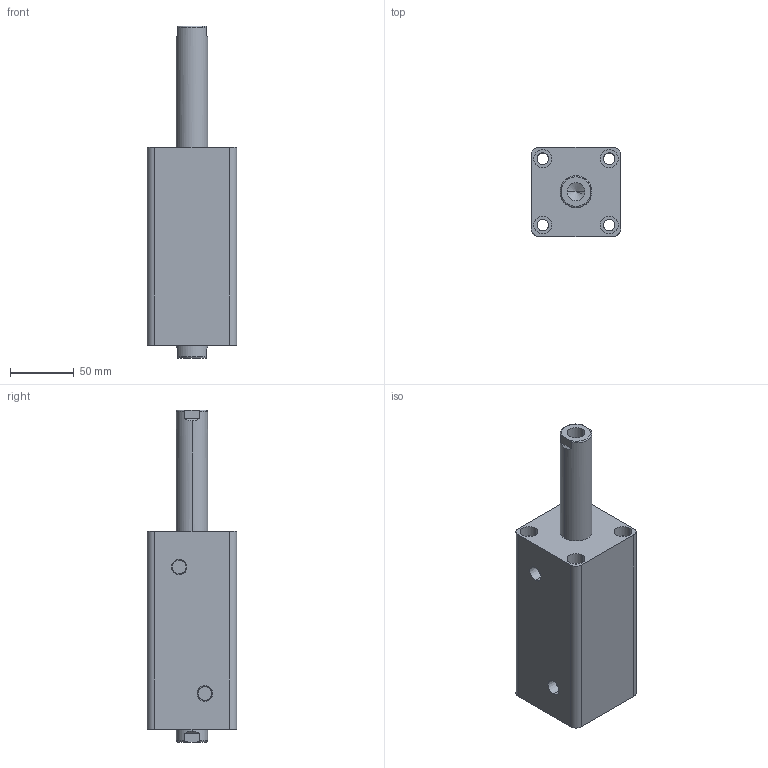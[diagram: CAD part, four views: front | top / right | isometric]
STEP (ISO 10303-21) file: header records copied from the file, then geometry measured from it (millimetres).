
FILE_DESCRIPTION (( 'STEP AP203' ), '1' );
FILE_NAME ('HTB-SW40-85N.STEP', '2019-10-07T09:12:29', ( '微软用户' ), ( '微软中国' ), 'SwSTEP 2.0', 'SolidWorks 2012', '' );
FILE_SCHEMA (( 'CONFIG_CONTROL_DESIGN' ));
Length unit declared in the file: millimetre
Products named in the file (3): HTB-SW40-85N活塞杆; HTB-SW40-85掛极; HTB-SW40-85N
Assembly tree (2 placements, depth 2):
  HTB-SW40-85N
    HTB-SW40-85掛极
    HTB-SW40-85N活塞杆
Bounding box: 70 x 70 x 260 mm (x, y, z)
Volume: 686831.9 mm3; surface area: 113061.1 mm2
Topology: 2 solids, 2 shells, 100 faces, 228 edges, 146 vertices
Faces by surface type: cylinder 48, plane 32, torus 12, cone 8
Entity records: 3237 total; most frequent: CARTESIAN_POINT 595, DIRECTION 542, ORIENTED_EDGE 448, AXIS2_PLACEMENT_3D 229, EDGE_CURVE 224, VERTEX_POINT 146, EDGE_LOOP 128, CIRCLE 124
